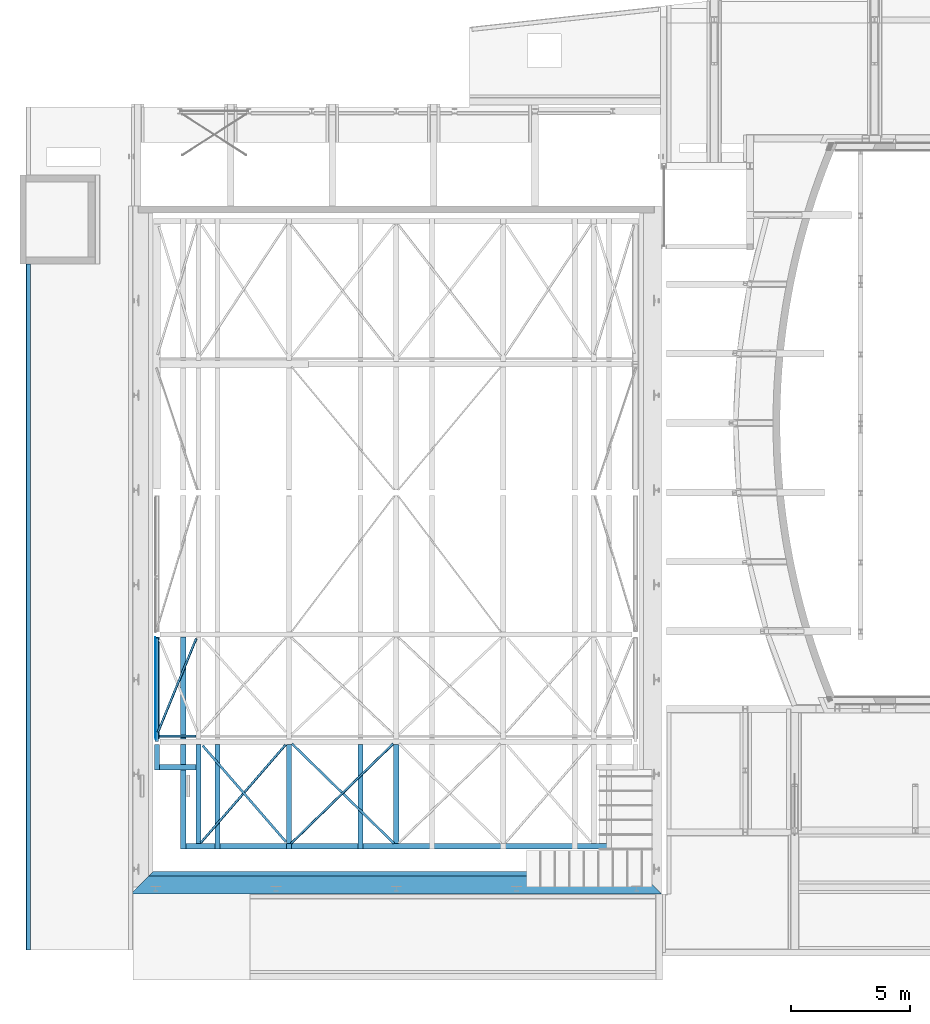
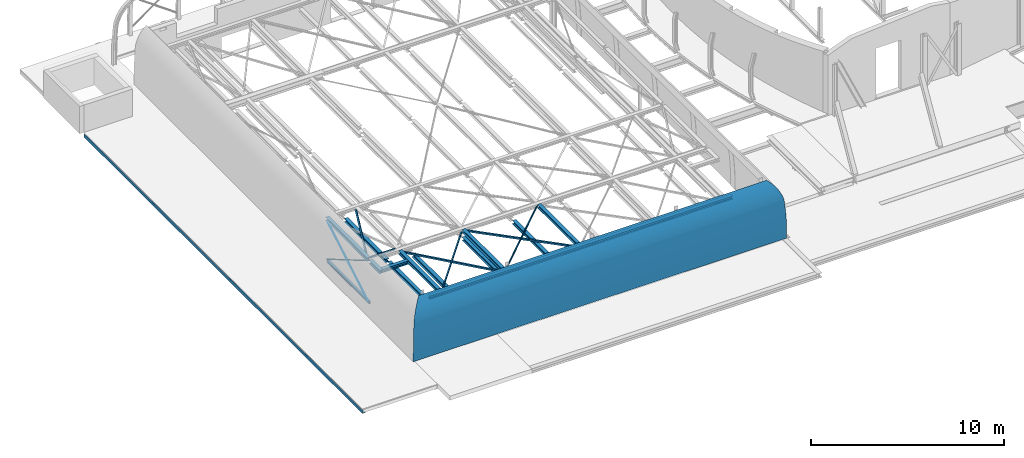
# One storey, part 10 of 38: 23 beams.
"""IFC2X3 building model written with IfcOpenShell, lengths in millimetres."""

from ifc_helpers import new_model, entity, si_unit, converted_unit, derived_unit, direction, frame, frame_2d, origin, origin_2d_with_axis, place, context, subcontext, project, spatial, polyline, circle_curve, parameter, trimmed, segment, composite_curve, rectangle, i_section, outline, extrude, clip, halfspace, material, type_object, element, save


model = new_model("IFC2X3")

# Units and contexts
model_context = context("Model", 3, precision=0.01, world=origin(), true_north=direction((6.12303176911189e-17, 1.0)))
body_context = subcontext(model_context, "Body", "Model", "MODEL_VIEW")
ifc_project = project(units=[si_unit("LENGTHUNIT", "METRE", prefix="MILLI"), si_unit("AREAUNIT", "SQUARE_METRE", prefix="MILLI"), si_unit("VOLUMEUNIT", "CUBIC_METRE"), converted_unit("PLANEANGLEUNIT", "DEGREE", entity("IfcRatioMeasure", 0.0174532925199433), si_unit("PLANEANGLEUNIT", "RADIAN"), dimensions=[0, 0, 0, 0, 0, 0, 0]), si_unit("MASSUNIT", "GRAM", prefix="KILO"), derived_unit("MASSDENSITYUNIT", [(si_unit("MASSUNIT", "GRAM", prefix="KILO"), 1), (si_unit("LENGTHUNIT", "METRE"), -3)]), derived_unit("MOMENTOFINERTIAUNIT", [(si_unit("LENGTHUNIT", "METRE"), 4)]), si_unit("TIMEUNIT", "SECOND"), si_unit("FREQUENCYUNIT", "HERTZ"), si_unit("THERMODYNAMICTEMPERATUREUNIT", "DEGREE_CELSIUS"), derived_unit("THERMALTRANSMITTANCEUNIT", [(si_unit("MASSUNIT", "GRAM", prefix="KILO"), 1), (si_unit("THERMODYNAMICTEMPERATUREUNIT", "KELVIN"), -1), (si_unit("TIMEUNIT", "SECOND"), -3)]), derived_unit("VOLUMETRICFLOWRATEUNIT", [(si_unit("LENGTHUNIT", "METRE"), 3), (si_unit("TIMEUNIT", "SECOND"), -1)]), si_unit("ELECTRICCURRENTUNIT", "AMPERE"), si_unit("ELECTRICVOLTAGEUNIT", "VOLT"), si_unit("POWERUNIT", "WATT"), si_unit("FORCEUNIT", "NEWTON", prefix="KILO"), si_unit("ILLUMINANCEUNIT", "LUX"), si_unit("LUMINOUSFLUXUNIT", "LUMEN"), si_unit("LUMINOUSINTENSITYUNIT", "CANDELA"), derived_unit("USERDEFINED", [(si_unit("MASSUNIT", "GRAM", prefix="KILO"), -1), (si_unit("LENGTHUNIT", "METRE"), -2), (si_unit("TIMEUNIT", "SECOND"), 3), (si_unit("LUMINOUSFLUXUNIT", "LUMEN"), 1)]), derived_unit("LINEARVELOCITYUNIT", [(si_unit("LENGTHUNIT", "METRE"), 1), (si_unit("TIMEUNIT", "SECOND"), -1)]), si_unit("PRESSUREUNIT", "PASCAL"), derived_unit("USERDEFINED", [(si_unit("LENGTHUNIT", "METRE"), -2), (si_unit("MASSUNIT", "GRAM", prefix="KILO"), 1), (si_unit("TIMEUNIT", "SECOND"), -2)]), derived_unit("LINEARFORCEUNIT", [(si_unit("MASSUNIT", "GRAM", prefix="KILO"), 1), (si_unit("LENGTHUNIT", "METRE"), 1), (si_unit("TIMEUNIT", "SECOND"), -2), (si_unit("LENGTHUNIT", "METRE"), -1)]), derived_unit("PLANARFORCEUNIT", [(si_unit("MASSUNIT", "GRAM", prefix="KILO"), 1), (si_unit("LENGTHUNIT", "METRE"), 1), (si_unit("TIMEUNIT", "SECOND"), -2), (si_unit("LENGTHUNIT", "METRE"), -2)])], contexts=[model_context])

# Site, building, storey
site_placement = place(None, origin())
site = spatial("IfcSite", under=ifc_project, at=site_placement, Name="Theater aan de Parade", CompositionType="ELEMENT")
building_placement = place(site_placement, origin())
building = spatial("IfcBuilding", under=site, at=building_placement, Name="Theater aan de Parade", CompositionType="ELEMENT")
storey_placement = place(building_placement, frame((0.0, 0.0, 12480.0)))
storey = spatial("IfcBuildingStorey", under=building, at=storey_placement, Name="03 derde verdieping", CompositionType="ELEMENT", Elevation=12480.0)

# Beams
ifc_material_1 = material(Name="00_PBT_MAT_beton prefab")
beam_type_1 = type_object("IfcBeamType", Name="28_PBT_SF_paradezaal_dakboog:28_PBT_SF_paradezaal_dakboog", PredefinedType="NOTDEFINED")
beam_1_placement = place(storey_placement, frame((38925.0, 12969.2267696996, 0.0), z_axis=(0.0, 0.0, 1.0), x_axis=(-1.0, 0.0, 0.0)))
element("IfcBeam", 1, at=beam_1_placement, inside=storey, type_object=beam_type_1, material=ifc_material_1, Name="28_PBT_SF_paradezaal_dakboog:28_PBT_SF_paradezaal_dakboog", ObjectType="28_PBT_SF_paradezaal_dakboog:28_PBT_SF_paradezaal_dakboog", context=body_context, shape_type="Clipping", body=[
    clip(clip(extrude(outline(composite_curve([segment(polyline([(48.2751058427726, -1510.62635842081), (348.2760691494, -1510.62635842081)]), True, "CONTINUOUS"), segment(polyline([(348.276069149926, -1510.62635842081), (348.276069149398, -1170.62635842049)]), True, "CONTINUOUS"), segment(trimmed(circle_curve(frame_2d((-19571.6655062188, -1120.52725132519), x_axis=(0.999996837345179, -0.00251501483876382)), 19920.0045754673), [parameter(0.0)], [parameter(5.86098196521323)], True, "PARAMETER"), True, "CONTINUOUS"), segment(trimmed(circle_curve(frame_2d((-1483.66591109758, 568.073123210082), x_axis=(0.985753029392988, 0.168199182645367)), 1757.97390754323), [parameter(0.0)], [parameter(42.4704148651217)], True, "PARAMETER"), True, "CONTINUOUS"), segment(polyline([(-405.065458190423, 1956.27099188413), (-589.129700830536, 1719.3736415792)]), True, "CONTINUOUS"), segment(trimmed(circle_curve(frame_2d((-1483.66591109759, 568.073123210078), x_axis=(0.613547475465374, 0.789657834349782)), 1457.97390754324), [parameter(317.920295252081)], [parameter(0.0)], True, "PARAMETER"), False, "CONTINUOUS"), segment(trimmed(circle_curve(frame_2d((-19571.6655062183, -1120.52725132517), x_axis=(0.99508111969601, 0.0990634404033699)), 19620.0045754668), [parameter(354.168454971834)], [parameter(0.0)], True, "PARAMETER"), False, "CONTINUOUS"), segment(polyline([(48.2751058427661, -1170.62635842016), (48.2751058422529, -1510.62635842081)]), True, "CONTINUOUS")], self_intersect=False)), frame((1670.55165531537, -47.6858545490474, 1190.62635842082), z_axis=(1.0, 0.0, 0.0), x_axis=(0.0, 1.0, 0.0)), (0.0, 0.0, 1.0), 22301.1815567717), halfspace(frame((23227.2107173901, -443.93228009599, 4340.0), z_axis=(0.707106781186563, -0.707106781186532, 0.0), x_axis=(-0.707106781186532, -0.707106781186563, 0.0)), False)), halfspace(frame((2415.0741500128, -443.932280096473, 4340.0), z_axis=(-0.70710678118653, -0.707106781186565, 0.0), x_axis=(0.707106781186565, -0.70710678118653, 0.0)), False)),
])
ifc_material_2 = material(Name="00_PBT_MAT_staal_S355")
beam_type_2 = type_object("IfcBeamType", Name="28_PBT_SF_staal_H-profiel:S355_HE220A", PredefinedType="NOTDEFINED")
beam_2_placement = place(storey_placement, frame((17053.8569463, 14676.2906196, 1930.0)))
element("IfcBeam", 2, at=beam_2_placement, inside=storey, type_object=beam_type_2, material=ifc_material_2, Name="28_PBT_SF_staal_H-profiel:S355_HE220A", ObjectType="28_PBT_SF_staal_H-profiel:S355_HE220A", context=body_context, shape_type="SweptSolid", body=[
    extrude(i_section(OverallWidth=220.000000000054, OverallDepth=210.0, WebThickness=6.99999999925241, FlangeThickness=10.9999999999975, FilletRadius=18.0000000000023, at=frame_2d((0.0, 1.08002495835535e-12), x_axis=(0.0, 1.0))), frame((0.0, 0.0, -105.0), z_axis=(1.0, 0.0, 0.0), x_axis=(0.0, 0.0, -1.0)), (0.0, 0.0, 1.0), 18099.9988000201),
])
beam_3_placement = place(storey_placement, frame((16053.8570032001, 23458.2922985, 1930.0), z_axis=(0.0, 0.0, 1.0), x_axis=(0.0, -1.0, 0.0)))
element("IfcBeam", 3, at=beam_3_placement, inside=storey, type_object=beam_type_2, material=ifc_material_2, Name="28_PBT_SF_staal_H-profiel:S355_HE220A", ObjectType="28_PBT_SF_staal_H-profiel:S355_HE220A", context=body_context, shape_type="SweptSolid", body=[
    extrude(i_section(OverallWidth=220.0, OverallDepth=210.0, WebThickness=7.00000000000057, FlangeThickness=10.9999999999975, FilletRadius=18.0000000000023, at=frame_2d((0.0, 1.08002495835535e-12), x_axis=(0.0, 1.0))), frame((0.0, 0.0, -105.0), z_axis=(1.0, 0.0, 0.0), x_axis=(0.0, 0.0, -1.0)), (0.0, 0.0, 1.0), 4280.00000000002),
])
beam_4_placement = place(storey_placement, frame((16053.8570032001, 18958.2922984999, 1930.0), z_axis=(0.0, 0.0, 1.0), x_axis=(0.0, -1.0, 0.0)))
element("IfcBeam", 4, at=beam_4_placement, inside=storey, type_object=beam_type_2, material=ifc_material_2, Name="28_PBT_SF_staal_H-profiel:S355_HE220A", ObjectType="28_PBT_SF_staal_H-profiel:S355_HE220A", context=body_context, shape_type="SweptSolid", body=[
    extrude(i_section(OverallWidth=220.0, OverallDepth=210.0, WebThickness=7.00000000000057, FlangeThickness=10.9999999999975, FilletRadius=18.0000000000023, at=frame_2d((0.0, 1.08002495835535e-12), x_axis=(0.0, 1.0))), frame((0.0, 0.0, -105.0), z_axis=(1.0, 0.0, 0.0), x_axis=(0.0, 0.0, -1.0)), (0.0, 0.0, 1.0), 1076.98459113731),
])
beam_5_placement = place(storey_placement, frame((17801.8563463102, 18958.2922984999, 1930.0), z_axis=(0.0, 0.0, 1.0), x_axis=(0.0, -1.0, 0.0)))
element("IfcBeam", 5, at=beam_5_placement, inside=storey, type_object=beam_type_2, material=ifc_material_2, Name="28_PBT_SF_staal_H-profiel:S355_HE220A", ObjectType="28_PBT_SF_staal_H-profiel:S355_HE220A", context=body_context, shape_type="SweptSolid", body=[
    extrude(i_section(OverallWidth=220.0, OverallDepth=210.0, WebThickness=7.00000000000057, FlangeThickness=10.9999999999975, FilletRadius=18.0000000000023, at=frame_2d((0.0, -3.24718030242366e-12), x_axis=(0.0, 1.0))), frame((0.0, 0.0, -105.0), z_axis=(1.0, 0.0, 0.0), x_axis=(0.0, 0.0, -1.0)), (0.0, 0.0, 1.0), 4172.00167889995),
])
beam_6_placement = place(storey_placement, frame((16163.8570032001, 17991.3077073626, 1930.0)))
element("IfcBeam", 6, at=beam_6_placement, inside=storey, type_object=beam_type_2, material=ifc_material_2, Name="28_PBT_SF_staal_H-profiel:S355_HE220A", ObjectType="28_PBT_SF_staal_H-profiel:S355_HE220A", context=body_context, shape_type="SweptSolid", body=[
    extrude(outline(composite_curve([segment(polyline([(94.0, -110.0), (105.0, -110.0)]), True, "CONTINUOUS"), segment(polyline([(105.0, -110.0), (105.0, 110.0)]), True, "CONTINUOUS"), segment(polyline([(105.0, 110.0), (94.0, 110.0)]), True, "CONTINUOUS"), segment(polyline([(94.0, 110.0), (94.0, 21.4999999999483)]), True, "CONTINUOUS"), segment(trimmed(circle_curve(frame_2d((76.0, 21.4999999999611), x_axis=(1.0, 0.0)), 18.0000000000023), [parameter(270.000000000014)], [parameter(0.0)], True, "PARAMETER"), False, "CONTINUOUS"), segment(polyline([(76.0, 3.49999999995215), (-76.0, 3.50000000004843)]), True, "CONTINUOUS"), segment(trimmed(circle_curve(frame_2d((-76.0, 21.5000000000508), x_axis=(0.0, -1.0)), 18.0000000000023), [parameter(270.000000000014)], [parameter(0.0)], True, "PARAMETER"), False, "CONTINUOUS"), segment(polyline([(-94.0, 21.5000000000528), (-94.0, 110.0)]), True, "CONTINUOUS"), segment(polyline([(-94.0, 110.0), (-105.0, 110.0)]), True, "CONTINUOUS"), segment(polyline([(-105.0, 110.0), (-105.0, -110.0)]), True, "CONTINUOUS"), segment(polyline([(-105.0, -110.0), (-94.0, -110.0)]), True, "CONTINUOUS"), segment(polyline([(-94.0, -110.0), (-94.0, -21.4999999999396)]), True, "CONTINUOUS"), segment(trimmed(circle_curve(frame_2d((-76.0, -21.4999999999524), x_axis=(-1.0, 0.0)), 18.0000000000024), [parameter(270.000000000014)], [parameter(0.0)], True, "PARAMETER"), False, "CONTINUOUS"), segment(polyline([(-76.0, -3.49999999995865), (76.0, -3.50000000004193)]), True, "CONTINUOUS"), segment(trimmed(circle_curve(frame_2d((76.0, -21.5000000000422), x_axis=(0.0, 1.0)), 18.0000000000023), [parameter(270.000000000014)], [parameter(0.0)], True, "PARAMETER"), False, "CONTINUOUS"), segment(polyline([(94.0, -21.5000000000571), (94.0, -110.0)]), True, "CONTINUOUS")], self_intersect=False)), frame((0.0, 0.0, -105.0), z_axis=(1.0, 0.0, 0.0), x_axis=(0.0, 0.0, -1.0)), (0.0, 0.0, 1.0), 1529.99999929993),
])
beam_7_placement = place(storey_placement, frame((21603.8563463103, 18958.2922984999, 1930.0), z_axis=(0.0, 0.0, 1.0), x_axis=(0.0, -1.0, 0.0)))
element("IfcBeam", 7, at=beam_7_placement, inside=storey, type_object=beam_type_2, material=ifc_material_2, Name="28_PBT_SF_staal_H-profiel:S355_HE220A", ObjectType="28_PBT_SF_staal_H-profiel:S355_HE220A", context=body_context, shape_type="SweptSolid", body=[
    extrude(i_section(OverallWidth=220.000000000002, OverallDepth=210.0, WebThickness=7.00000000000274, FlangeThickness=10.9999999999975, FilletRadius=18.0000000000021, at=frame_2d((0.0, -2.16715534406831e-12), x_axis=(0.0, 1.0))), frame((0.0, 0.0, -105.0), z_axis=(1.0, 0.0, 0.0), x_axis=(0.0, 0.0, -1.0)), (0.0, 0.0, 1.0), 4172.00167889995),
])
beam_8_placement = place(storey_placement, frame((26103.8570025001, 18958.2922984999, 1930.0), z_axis=(0.0, 0.0, 1.0), x_axis=(0.0, -1.0, 0.0)))
element("IfcBeam", 8, at=beam_8_placement, inside=storey, type_object=beam_type_2, material=ifc_material_2, Name="28_PBT_SF_staal_H-profiel:S355_HE220A", ObjectType="28_PBT_SF_staal_H-profiel:S355_HE220A", context=body_context, shape_type="SweptSolid", body=[
    extrude(i_section(OverallWidth=220.000000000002, OverallDepth=210.0, WebThickness=7.00000000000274, FlangeThickness=10.9999999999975, FilletRadius=18.0000000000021, at=frame_2d((0.0, 2.16715534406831e-12), x_axis=(0.0, 1.0))), frame((0.0, 0.0, -105.0), z_axis=(1.0, 0.0, 0.0), x_axis=(0.0, 0.0, -1.0)), (0.0, 0.0, 1.0), 4172.00167889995),
])
beam_9_placement = place(storey_placement, frame((17163.8569463, 23458.2922984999, 1930.0), z_axis=(0.0, 0.0, 1.0), x_axis=(0.0, -1.0, 0.0)))
element("IfcBeam", 9, at=beam_9_placement, inside=storey, type_object=beam_type_2, material=ifc_material_2, Name="28_PBT_SF_staal_H-profiel:S355_HE220A", ObjectType="28_PBT_SF_staal_H-profiel:S355_HE220A", context=body_context, shape_type="SweptSolid", body=[
    extrude(i_section(OverallWidth=220.0, OverallDepth=210.0, WebThickness=7.00000000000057, FlangeThickness=10.9999999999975, FilletRadius=18.0000000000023, at=frame_2d((-2.16715534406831e-12, 3.24718030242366e-12), x_axis=(0.0, 1.0))), frame((0.0, 0.0, -585.0), z_axis=(1.0, 0.0, 0.0), x_axis=(0.0, 0.0, -1.0)), (0.0, 0.0, 1.0), 4280.00000000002),
])
beam_10_placement = place(storey_placement, frame((18603.8563463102, 18958.2922984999, 1930.0), z_axis=(0.0, 0.0, 1.0), x_axis=(0.0, -1.0, 0.0)))
element("IfcBeam", 10, at=beam_10_placement, inside=storey, type_object=beam_type_2, material=ifc_material_2, Name="28_PBT_SF_staal_H-profiel:S355_HE220A", ObjectType="28_PBT_SF_staal_H-profiel:S355_HE220A", context=body_context, shape_type="SweptSolid", body=[
    extrude(i_section(OverallWidth=220.0, OverallDepth=210.0, WebThickness=7.00000000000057, FlangeThickness=10.9999999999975, FilletRadius=18.0000000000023, at=frame_2d((-2.16715534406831e-12, -1.08002495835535e-12), x_axis=(0.0, 1.0))), frame((0.0, 0.0, -585.0), z_axis=(1.0, 0.0, 0.0), x_axis=(0.0, 0.0, -1.0)), (0.0, 0.0, 1.0), 4402.00167890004),
])
beam_11_placement = place(storey_placement, frame((24603.8563463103, 18958.2922985, 1930.0), z_axis=(0.0, 0.0, 1.0), x_axis=(0.0, -1.0, 0.0)))
element("IfcBeam", 11, at=beam_11_placement, inside=storey, type_object=beam_type_2, material=ifc_material_2, Name="28_PBT_SF_staal_H-profiel:S355_HE220A", ObjectType="28_PBT_SF_staal_H-profiel:S355_HE220A", context=body_context, shape_type="SweptSolid", body=[
    extrude(i_section(OverallWidth=219.999999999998, OverallDepth=210.0, WebThickness=7.00000000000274, FlangeThickness=10.9999999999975, FilletRadius=18.0000000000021, at=frame_2d((-4.32720526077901e-12, -2.16715534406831e-12), x_axis=(0.0, 1.0))), frame((0.0, 0.0, -585.0), z_axis=(1.0, 0.0, 0.0), x_axis=(0.0, 0.0, -1.0)), (0.0, 0.0, 1.0), 4402.00167890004),
])
beam_12_placement = place(storey_placement, frame((17163.8569463, 18958.2922984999, 1930.0), z_axis=(0.0, 0.0, 1.0), x_axis=(0.0, -1.0, 0.0)))
element("IfcBeam", 12, at=beam_12_placement, inside=storey, type_object=beam_type_2, material=ifc_material_2, Name="28_PBT_SF_staal_H-profiel:S355_HE220A", ObjectType="28_PBT_SF_staal_H-profiel:S355_HE220A", context=body_context, shape_type="SweptSolid", body=[
    extrude(i_section(OverallWidth=220.0, OverallDepth=210.0, WebThickness=7.00000000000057, FlangeThickness=10.9999999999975, FilletRadius=18.0000000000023, at=frame_2d((-2.16715534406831e-12, -1.08002495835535e-12), x_axis=(0.0, 1.0))), frame((0.0, 0.0, -585.0), z_axis=(1.0, 0.0, 0.0), x_axis=(0.0, 0.0, -1.0)), (0.0, 0.0, 1.0), 4402.00167890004),
])
beam_13_placement = place(storey_placement, frame((21603.8563463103, 18958.2922985, 1930.0), z_axis=(0.0, 0.0, 1.0), x_axis=(0.0, -1.0, 0.0)))
element("IfcBeam", 13, at=beam_13_placement, inside=storey, type_object=beam_type_2, material=ifc_material_2, Name="28_PBT_SF_staal_H-profiel:S355_HE220A", ObjectType="28_PBT_SF_staal_H-profiel:S355_HE220A", context=body_context, shape_type="SweptSolid", body=[
    extrude(i_section(OverallWidth=219.999999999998, OverallDepth=210.0, WebThickness=7.00000000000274, FlangeThickness=10.9999999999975, FilletRadius=18.0000000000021, at=frame_2d((-4.32720526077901e-12, 2.16715534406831e-12), x_axis=(0.0, 1.0))), frame((0.0, 0.0, -585.0), z_axis=(1.0, 0.0, 0.0), x_axis=(0.0, 0.0, -1.0)), (0.0, 0.0, 1.0), 4402.00167890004),
])
beam_type_3 = type_object("IfcBeamType", Name="28_PBT_SF_staal_H-profiel:S355_HE140A", PredefinedType="NOTDEFINED")
beam_14_placement = place(storey_placement, frame((16053.8570032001, 19068.2922984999, 0.0), z_axis=(0.0, 0.0, 1.0), x_axis=(0.0, 1.0, 0.0)))
element("IfcBeam", 14, at=beam_14_placement, inside=storey, type_object=beam_type_3, material=ifc_material_2, Name="28_PBT_SF_staal_H-profiel:S355_HE140A", ObjectType="28_PBT_SF_staal_H-profiel:S355_HE140A", context=body_context, shape_type="SweptSolid", body=[
    extrude(i_section(OverallWidth=140.000000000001, OverallDepth=133.0, WebThickness=5.49999999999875, FlangeThickness=8.49999999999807, FilletRadius=11.9999999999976, at=frame_2d((0.0, -2.1600499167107e-12), x_axis=(0.0, 1.0))), frame((0.0, 0.0, -846.5), z_axis=(1.0, 0.0, 0.0), x_axis=(0.0, 0.0, -1.0)), (0.0, 0.0, 1.0), 4360.00000000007),
])
beam_type_4 = type_object("IfcBeamType", Name="28_PBT_SF_staal_L-profiel:S355_L200x200x20", PredefinedType="NOTDEFINED")
beam_15_placement = place(storey_placement, frame((10610.9125537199, 39120.0, 0.0), z_axis=(0.0, 0.0, 1.0), x_axis=(0.0, -1.0, 0.0)))
element("IfcBeam", 15, at=beam_15_placement, inside=storey, type_object=beam_type_4, material=ifc_material_2, Name="28_PBT_SF_staal_L-profiel:S355_L200x200x20", ObjectType="28_PBT_SF_staal_L-profiel:S355_L200x200x20", context=body_context, shape_type="SweptSolid", body=[
    extrude(outline(composite_curve([segment(polyline([(-124.444444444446, -75.5555555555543), (75.5555555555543, -75.5555555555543)]), True, "CONTINUOUS"), segment(polyline([(75.5555555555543, -75.5555555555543), (75.5555555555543, 124.444444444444)]), True, "CONTINUOUS"), segment(polyline([(75.5555555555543, 124.444444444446), (64.5555555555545, 124.444444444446)]), True, "CONTINUOUS"), segment(trimmed(circle_curve(frame_2d((64.5555555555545, 115.444444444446), x_axis=(0.0, 1.0)), 9.00000000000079), [parameter(0.0)], [parameter(90.0000000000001)], True, "PARAMETER"), True, "CONTINUOUS"), segment(polyline([(55.5555555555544, 115.444444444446), (55.5555555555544, -37.5555555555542)]), True, "CONTINUOUS"), segment(trimmed(circle_curve(frame_2d((37.555555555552, -37.5555555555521), x_axis=(1.0, 0.0)), 18.0000000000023), [parameter(270.000000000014)], [parameter(0.0)], True, "PARAMETER"), False, "CONTINUOUS"), segment(polyline([(37.5555555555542, -55.5555555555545), (-115.444444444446, -55.5555555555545)]), True, "CONTINUOUS"), segment(trimmed(circle_curve(frame_2d((-115.444444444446, -64.5555555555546), x_axis=(0.0, 1.0)), 8.99999999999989), [parameter(0.0)], [parameter(90.0000000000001)], True, "PARAMETER"), True, "CONTINUOUS"), segment(polyline([(-124.444444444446, -64.5555555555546), (-124.444444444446, -75.5555555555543)]), True, "CONTINUOUS")], self_intersect=False)), frame((0.0, 18.755555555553, -549.444444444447), z_axis=(1.0, 0.0, 0.0), x_axis=(0.0, 0.0, -1.0)), (0.0, 0.0, 1.0), 28800.6729253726),
])
beam_type_5 = type_object("IfcBeamType", Name="28_PBT_SF_staal_L-profiel:S355_L100x100x10", PredefinedType="NOTDEFINED")
beam_16_placement = place(storey_placement, frame((26103.8570025, 19068.2922984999, 1930.0), z_axis=(0.0, 0.0, 1.0), x_axis=(-0.71564225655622, -0.698467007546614, 0.0)))
element("IfcBeam", 16, at=beam_16_placement, inside=storey, type_object=beam_type_5, material=ifc_material_2, Name="28_PBT_SF_staal_L-profiel:S355_L100x100x10", ObjectType="28_PBT_SF_staal_L-profiel:S355_L100x100x10", context=body_context, shape_type="SweptSolid", body=[
    extrude(outline(composite_curve([segment(polyline([(33.7777777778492, -62.222222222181), (37.7777777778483, -62.2222222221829)]), True, "CONTINUOUS"), segment(polyline([(37.7777777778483, -62.2222222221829), (37.7777777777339, 37.7777777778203)]), True, "CONTINUOUS"), segment(polyline([(37.7777777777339, 37.7777777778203), (-62.222222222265, 37.777777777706)]), True, "CONTINUOUS"), segment(polyline([(-62.222222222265, 37.7777777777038), (-62.2222222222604, 33.7777777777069)]), True, "CONTINUOUS"), segment(trimmed(circle_curve(frame_2d((-56.222222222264, 33.7777777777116), x_axis=(-1.0, 0.0)), 5.99999999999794), [parameter(0.0)], [parameter(90.0000000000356)], True, "PARAMETER"), True, "CONTINUOUS"), segment(polyline([(-56.2222222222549, 27.7777777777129), (15.777777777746, 27.7777777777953)]), True, "CONTINUOUS"), segment(trimmed(circle_curve(frame_2d((15.7777777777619, 15.7777777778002), x_axis=(0.0, 1.0)), 11.9999999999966), [parameter(269.999999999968)], [parameter(0.0)], True, "PARAMETER"), False, "CONTINUOUS"), segment(polyline([(27.7777777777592, 15.7777777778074), (27.7777777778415, -56.2222222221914)]), True, "CONTINUOUS"), segment(trimmed(circle_curve(frame_2d((33.7777777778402, -56.2222222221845), x_axis=(-1.0, 0.0)), 5.99999999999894), [parameter(0.0)], [parameter(90.0000000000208)], True, "PARAMETER"), True, "CONTINUOUS")], self_intersect=False)), frame((150.0, -9.57777777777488, -67.2222222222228), z_axis=(1.0, 0.0, 0.0), x_axis=(0.0, 0.0, -1.0)), (0.0, 0.0, 1.0), 5988.05889390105),
])
beam_17_placement = place(storey_placement, frame((21603.8570025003, 19068.2922984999, 1930.0), z_axis=(0.0, 0.0, 1.0), x_axis=(0.715642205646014, -0.698467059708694, 0.0)))
element("IfcBeam", 17, at=beam_17_placement, inside=storey, type_object=beam_type_5, material=ifc_material_2, Name="28_PBT_SF_staal_L-profiel:S355_L100x100x10", ObjectType="28_PBT_SF_staal_L-profiel:S355_L100x100x10", context=body_context, shape_type="SweptSolid", body=[
    extrude(outline(composite_curve([segment(polyline([(-37.7777777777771, -37.7777777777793), (62.2222222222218, -37.7777777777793)]), True, "CONTINUOUS"), segment(polyline([(62.2222222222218, -37.7777777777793), (62.2222222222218, -33.7777777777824)]), True, "CONTINUOUS"), segment(trimmed(circle_curve(frame_2d((56.2222222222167, -33.7777777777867), x_axis=(1.0, 0.0)), 6.00000000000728), [parameter(0.0)], [parameter(89.9999999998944)], True, "PARAMETER"), True, "CONTINUOUS"), segment(polyline([(56.2222222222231, -27.7777777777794), (-15.7777777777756, -27.7777777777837)]), True, "CONTINUOUS"), segment(trimmed(circle_curve(frame_2d((-15.77777777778, -15.77777777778), x_axis=(0.0, -1.0)), 11.9999999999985), [parameter(269.99999999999)], [parameter(0.0)], True, "PARAMETER"), False, "CONTINUOUS"), segment(polyline([(-27.7777777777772, -15.77777777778), (-27.7777777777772, 56.2222222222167)]), True, "CONTINUOUS"), segment(trimmed(circle_curve(frame_2d((-33.7777777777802, 56.2222222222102), x_axis=(1.0, 0.0)), 6.00000000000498), [parameter(0.0)], [parameter(89.9999999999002)], True, "PARAMETER"), True, "CONTINUOUS"), segment(polyline([(-33.7777777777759, 62.2222222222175), (-37.777777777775, 62.2222222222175)]), True, "CONTINUOUS"), segment(polyline([(-37.7777777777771, 62.2222222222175), (-37.7777777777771, -37.7777777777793)]), True, "CONTINUOUS")], self_intersect=False)), frame((150.0, 9.57777777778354, -144.577777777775), z_axis=(1.0, 0.0, 0.0), x_axis=(0.0, 0.0, -1.0)), (0.0, 0.0, 1.0), 5988.05842430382),
])
beam_18_placement = place(storey_placement, frame((21603.8570025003, 19068.2922985, 1930.0), z_axis=(0.0, 0.0, 1.0), x_axis=(-0.654497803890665, -0.756063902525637, 0.0)))
element("IfcBeam", 18, at=beam_18_placement, inside=storey, type_object=beam_type_5, material=ifc_material_2, Name="28_PBT_SF_staal_L-profiel:S355_L100x100x10", ObjectType="28_PBT_SF_staal_L-profiel:S355_L100x100x10", context=body_context, shape_type="SweptSolid", body=[
    extrude(outline(composite_curve([segment(polyline([(33.777777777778, -62.222222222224), (37.7777777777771, -62.222222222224)]), True, "CONTINUOUS"), segment(polyline([(37.7777777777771, -62.222222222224), (37.7777777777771, 37.7777777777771)]), True, "CONTINUOUS"), segment(polyline([(37.7777777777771, 37.7777777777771), (-62.2222222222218, 37.7777777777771)]), True, "CONTINUOUS"), segment(polyline([(-62.2222222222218, 37.7777777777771), (-62.2222222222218, 33.7777777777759)]), True, "CONTINUOUS"), segment(trimmed(circle_curve(frame_2d((-56.222222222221, 33.7777777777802), x_axis=(-1.0, 0.0)), 6.00000000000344), [parameter(0.0)], [parameter(89.9999999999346)], True, "PARAMETER"), True, "CONTINUOUS"), segment(polyline([(-56.2222222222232, 27.7777777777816), (15.7777777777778, 27.7777777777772)]), True, "CONTINUOUS"), segment(trimmed(circle_curve(frame_2d((15.77777777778, 15.7777777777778), x_axis=(0.0, 1.0)), 11.9999999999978), [parameter(269.999999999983)], [parameter(0.0)], True, "PARAMETER"), False, "CONTINUOUS"), segment(polyline([(27.7777777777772, 15.7777777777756), (27.7777777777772, -56.2222222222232)]), True, "CONTINUOUS"), segment(trimmed(circle_curve(frame_2d((33.7777777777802, -56.2222222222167), x_axis=(-1.0, 0.0)), 6.00000000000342), [parameter(0.0)], [parameter(89.9999999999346)], True, "PARAMETER"), True, "CONTINUOUS")], self_intersect=False)), frame((190.660842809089, -9.57777777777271, -67.2222222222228), z_axis=(1.0, 0.0, 0.0), x_axis=(0.0, 0.0, -1.0)), (0.0, 0.0, 1.0), 5442.42242442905),
])
beam_19_placement = place(storey_placement, frame((17801.8570025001, 19068.2922984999, 1930.0), z_axis=(0.0, 0.0, 1.0), x_axis=(0.65449767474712, -0.756064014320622, 0.0)))
element("IfcBeam", 19, at=beam_19_placement, inside=storey, type_object=beam_type_5, material=ifc_material_2, Name="28_PBT_SF_staal_L-profiel:S355_L100x100x10", ObjectType="28_PBT_SF_staal_L-profiel:S355_L100x100x10", context=body_context, shape_type="SweptSolid", body=[
    extrude(outline(composite_curve([segment(polyline([(-37.7777777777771, -37.777777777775), (62.2222222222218, -37.777777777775)]), True, "CONTINUOUS"), segment(polyline([(62.2222222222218, -37.777777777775), (62.2222222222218, -33.7777777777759)]), True, "CONTINUOUS"), segment(trimmed(circle_curve(frame_2d((56.222222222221, -33.777777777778), x_axis=(1.0, 0.0)), 6.00000000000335), [parameter(0.0)], [parameter(89.9999999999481)], True, "PARAMETER"), True, "CONTINUOUS"), segment(polyline([(56.2222222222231, -27.7777777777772), (-15.7777777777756, -27.7777777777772)]), True, "CONTINUOUS"), segment(trimmed(circle_curve(frame_2d((-15.7777777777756, -15.7777777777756), x_axis=(0.0, -1.0)), 12.0000000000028), [parameter(270.000000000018)], [parameter(0.0)], True, "PARAMETER"), False, "CONTINUOUS"), segment(polyline([(-27.7777777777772, -15.7777777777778), (-27.7777777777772, 56.2222222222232)]), True, "CONTINUOUS"), segment(trimmed(circle_curve(frame_2d((-33.7777777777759, 56.222222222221), x_axis=(1.0, 0.0)), 6.00000000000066), [parameter(0.0)], [parameter(89.9999999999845)], True, "PARAMETER"), True, "CONTINUOUS"), segment(polyline([(-33.7777777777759, 62.2222222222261), (-37.777777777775, 62.2222222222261)]), True, "CONTINUOUS"), segment(polyline([(-37.7777777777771, 62.2222222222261), (-37.7777777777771, -37.777777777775)]), True, "CONTINUOUS")], self_intersect=False)), frame((235.529860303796, 9.57777777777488, -144.577777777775), z_axis=(1.0, 0.0, 0.0), x_axis=(0.0, 0.0, -1.0)), (0.0, 0.0, 1.0), 5347.71696600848),
])
beam_20_placement = place(storey_placement, frame((17801.8563463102, 23568.2922985, 1930.0), z_axis=(0.0, 0.0, 1.0), x_axis=(-0.378700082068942, -0.92551944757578, 0.0)))
element("IfcBeam", 20, at=beam_20_placement, inside=storey, type_object=beam_type_5, material=ifc_material_2, Name="28_PBT_SF_staal_L-profiel:S355_L100x100x10", ObjectType="28_PBT_SF_staal_L-profiel:S355_L100x100x10", context=body_context, shape_type="SweptSolid", body=[
    extrude(outline(composite_curve([segment(polyline([(33.777777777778, -62.2222222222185), (37.7777777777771, -62.2222222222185)]), True, "CONTINUOUS"), segment(polyline([(37.7777777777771, -62.2222222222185), (37.7777777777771, 37.7777777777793)]), True, "CONTINUOUS"), segment(polyline([(37.7777777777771, 37.7777777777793), (-62.2222222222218, 37.7777777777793)]), True, "CONTINUOUS"), segment(polyline([(-62.2222222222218, 37.7777777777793), (-62.2222222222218, 33.7777777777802)]), True, "CONTINUOUS"), segment(trimmed(circle_curve(frame_2d((-56.2222222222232, 33.7777777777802), x_axis=(-1.0, 0.0)), 5.99999999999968), [parameter(0.0)], [parameter(90.0000000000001)], True, "PARAMETER"), True, "CONTINUOUS"), segment(polyline([(-56.2222222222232, 27.7777777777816), (15.7777777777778, 27.7777777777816)]), True, "CONTINUOUS"), segment(trimmed(circle_curve(frame_2d((15.7777777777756, 15.777777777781), x_axis=(0.0, 1.0)), 12.0000000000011), [parameter(270.00000000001)], [parameter(0.0)], True, "PARAMETER"), False, "CONTINUOUS"), segment(polyline([(27.7777777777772, 15.777777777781), (27.7777777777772, -56.2222222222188)]), True, "CONTINUOUS"), segment(trimmed(circle_curve(frame_2d((33.777777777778, -56.2222222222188), x_axis=(-1.0, 0.0)), 5.99999999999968), [parameter(0.0)], [parameter(90.0000000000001)], True, "PARAMETER"), True, "CONTINUOUS")], self_intersect=False)), frame((190.660842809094, -9.57777777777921, -67.2222222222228), z_axis=(1.0, 0.0, 0.0), x_axis=(0.0, 0.0, -1.0)), (0.0, 0.0, 1.0), 4249.17554390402),
])
ifc_material_3 = material(Name="00_PBT_MAT_staal")
beam_type_6 = type_object("IfcBeamType", Name="28_PBT_SF_staal_strip:strip 6x60", PredefinedType="NOTDEFINED")
beam_21_placement = place(storey_placement, frame((16011.3570032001, 19176.6695176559, -751.539117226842), z_axis=(0.0, -0.50530112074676, 0.86294309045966), x_axis=(0.0, 0.86294309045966, 0.50530112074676)))
element("IfcBeam", 21, at=beam_21_placement, inside=storey, type_object=beam_type_6, material=ifc_material_3, Name="28_PBT_SF_staal_strip:strip 6x60", ObjectType="28_PBT_SF_staal_strip:strip 6x60", context=body_context, shape_type="SweptSolid", body=[
    extrude(rectangle(XDim=60.0000000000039, YDim=5.99999999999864, at=origin_2d_with_axis()), frame((0.0, 3.0, 0.0), z_axis=(1.0, 0.0, 0.0), x_axis=(0.0, 0.0, -1.0)), (0.0, 0.0, 1.0), 4819.75042920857),
])
beam_22_placement = place(storey_placement, frame((15986.3570032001, 19069.3287565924, 1818.58742340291), z_axis=(0.0, 0.505183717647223, 0.863011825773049), x_axis=(0.0, 0.863011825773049, -0.505183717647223)))
element("IfcBeam", 22, at=beam_22_placement, inside=storey, type_object=beam_type_6, material=ifc_material_3, Name="28_PBT_SF_staal_strip:strip 6x60", ObjectType="28_PBT_SF_staal_strip:strip 6x60", context=body_context, shape_type="SweptSolid", body=[
    extrude(rectangle(XDim=60.0000000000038, YDim=5.99999999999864, at=frame_2d((-9.32587340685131e-13, 0.0), x_axis=(1.0, 0.0))), frame((214.946403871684, -3.0, 0.0), z_axis=(1.0, 0.0, 0.0), x_axis=(0.0, 0.0, -1.0)), (0.0, 0.0, 1.0), 4835.92707402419),
])
beam_type_7 = type_object("IfcBeamType", Name="28_PBT_SF_staal_koker:S355_K100x100x8", PredefinedType="NOTDEFINED")
beam_23_placement = place(storey_placement, frame((16163.8570032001, 19296.2906196, 1930.0)))
element("IfcBeam", 23, at=beam_23_placement, inside=storey, type_object=beam_type_7, material=ifc_material_2, Name="28_PBT_SF_staal_koker:S355_K100x100x8", ObjectType="28_PBT_SF_staal_koker:S355_K100x100x8", context=body_context, shape_type="SweptSolid", body=[
    extrude(outline(composite_curve([segment(polyline([(-38.0, -50.0), (38.0, -50.0)]), True, "CONTINUOUS"), segment(trimmed(circle_curve(frame_2d((38.0, -38.0), x_axis=(0.0, 1.0)), 12.0), [parameter(180.0)], [parameter(270.0)], True, "PARAMETER"), True, "CONTINUOUS"), segment(polyline([(50.0, -38.0), (50.0, 38.0)]), True, "CONTINUOUS"), segment(trimmed(circle_curve(frame_2d((38.0, 38.0), x_axis=(0.0, 1.0)), 12.0), [parameter(270.0)], [parameter(360.0)], True, "PARAMETER"), True, "CONTINUOUS"), segment(polyline([(38.0, 50.0), (-38.0, 50.0)]), True, "CONTINUOUS"), segment(trimmed(circle_curve(frame_2d((-38.0, 38.0), x_axis=(0.0, 1.0)), 12.0), [parameter(0.0)], [parameter(90.0000000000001)], True, "PARAMETER"), True, "CONTINUOUS"), segment(polyline([(-50.0, 38.0), (-50.0, -38.0)]), True, "CONTINUOUS"), segment(trimmed(circle_curve(frame_2d((-38.0, -38.0), x_axis=(0.0, 1.0)), 12.0), [parameter(90.0)], [parameter(180.0)], True, "PARAMETER"), True, "CONTINUOUS")], self_intersect=False), holes=[composite_curve([segment(polyline([(42.0, 34.0), (42.0, -34.0)]), True, "CONTINUOUS"), segment(trimmed(circle_curve(frame_2d((34.0, -34.0), x_axis=(0.0, 1.0)), 8.0), [parameter(180.0)], [parameter(270.0)], True, "PARAMETER"), False, "CONTINUOUS"), segment(polyline([(34.0, -42.0), (-34.0, -42.0)]), True, "CONTINUOUS"), segment(trimmed(circle_curve(frame_2d((-34.0, -34.0), x_axis=(0.0, 1.0)), 8.0), [parameter(90.0)], [parameter(180.0)], True, "PARAMETER"), False, "CONTINUOUS"), segment(polyline([(-42.0, -34.0), (-42.0, 34.0)]), True, "CONTINUOUS"), segment(trimmed(circle_curve(frame_2d((-34.0, 34.0), x_axis=(0.0, 1.0)), 8.0), [parameter(3.56222124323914e-13)], [parameter(90.0000000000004)], True, "PARAMETER"), False, "CONTINUOUS"), segment(polyline([(-34.0, 42.0), (34.0, 42.0)]), True, "CONTINUOUS"), segment(trimmed(circle_curve(frame_2d((34.0, 34.0), x_axis=(0.0, 1.0)), 8.0), [parameter(270.0)], [parameter(5.08888749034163e-14)], True, "PARAMETER"), False, "CONTINUOUS")], self_intersect=False)]), frame((0.0, 0.0, -110.0), z_axis=(1.0, 0.0, 0.0), x_axis=(0.0, 0.0, 1.0)), (0.0, 0.0, 1.0), 1527.99934311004),
])

save(model, "model.ifc")
